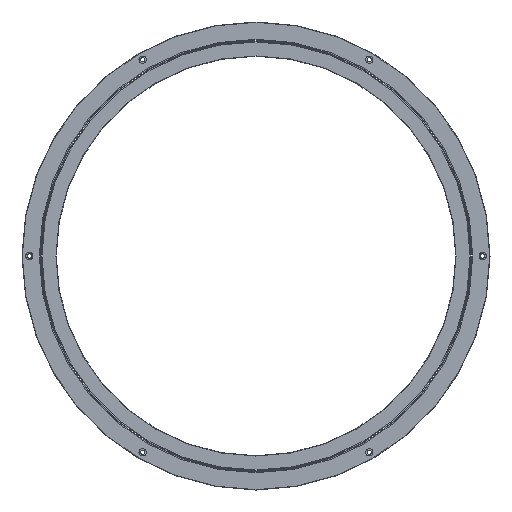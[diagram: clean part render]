
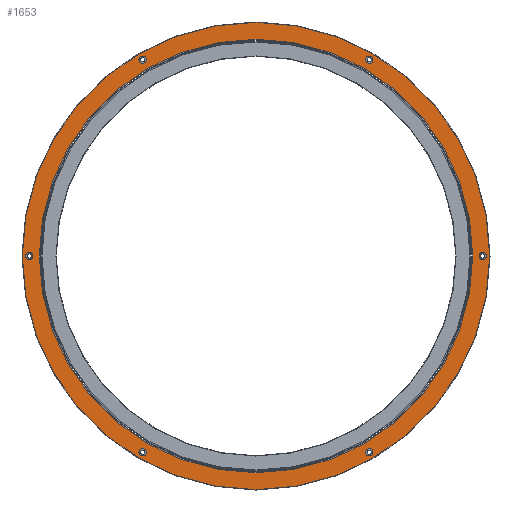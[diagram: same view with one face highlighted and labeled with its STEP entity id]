
A CAD part, front view. The second image highlights one B-rep face of the part: STEP entity #1653.
In plain terms, the highlighted planar face has unit normal (0, -1, 0).
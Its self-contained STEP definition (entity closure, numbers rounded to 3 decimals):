
#371=CARTESIAN_POINT('',(0.,0.,0.));
#372=DIRECTION('',(0.,-1.,0.));
#373=DIRECTION('',(-1.,0.,0.));
#374=AXIS2_PLACEMENT_3D('',#371,#372,#373);
#376=CARTESIAN_POINT('',(0.,0.,0.));
#377=DIRECTION('',(0.,1.,0.));
#378=DIRECTION('',(-1.,0.,0.));
#379=AXIS2_PLACEMENT_3D('',#376,#377,#378);
#381=CARTESIAN_POINT('',(-340.5,0.,0.));
#382=DIRECTION('',(0.,1.,0.));
#383=DIRECTION('',(1.,0.,0.));
#384=AXIS2_PLACEMENT_3D('',#381,#382,#383);
#386=CARTESIAN_POINT('',(-340.5,0.,0.));
#387=DIRECTION('',(0.,1.,0.));
#388=DIRECTION('',(-1.,0.,0.));
#389=AXIS2_PLACEMENT_3D('',#386,#387,#388);
#391=CARTESIAN_POINT('',(-170.25,0.,294.882));
#392=DIRECTION('',(0.,1.,0.));
#393=DIRECTION('',(0.5,0.,-0.866));
#394=AXIS2_PLACEMENT_3D('',#391,#392,#393);
#396=CARTESIAN_POINT('',(-170.25,0.,294.882));
#397=DIRECTION('',(0.,1.,0.));
#398=DIRECTION('',(-0.5,0.,0.866));
#399=AXIS2_PLACEMENT_3D('',#396,#397,#398);
#401=CARTESIAN_POINT('',(170.25,0.,294.882));
#402=DIRECTION('',(0.,1.,0.));
#403=DIRECTION('',(-0.5,0.,-0.866));
#404=AXIS2_PLACEMENT_3D('',#401,#402,#403);
#406=CARTESIAN_POINT('',(170.25,0.,294.882));
#407=DIRECTION('',(0.,1.,0.));
#408=DIRECTION('',(0.5,0.,0.866));
#409=AXIS2_PLACEMENT_3D('',#406,#407,#408);
#411=CARTESIAN_POINT('',(340.5,0.,0.));
#412=DIRECTION('',(0.,1.,0.));
#413=DIRECTION('',(-1.,0.,0.));
#414=AXIS2_PLACEMENT_3D('',#411,#412,#413);
#416=CARTESIAN_POINT('',(340.5,0.,0.));
#417=DIRECTION('',(0.,1.,0.));
#418=DIRECTION('',(1.,0.,0.));
#419=AXIS2_PLACEMENT_3D('',#416,#417,#418);
#421=CARTESIAN_POINT('',(170.25,0.,-294.882));
#422=DIRECTION('',(0.,1.,0.));
#423=DIRECTION('',(-0.5,0.,0.866));
#424=AXIS2_PLACEMENT_3D('',#421,#422,#423);
#426=CARTESIAN_POINT('',(170.25,0.,-294.882));
#427=DIRECTION('',(0.,1.,0.));
#428=DIRECTION('',(0.5,0.,-0.866));
#429=AXIS2_PLACEMENT_3D('',#426,#427,#428);
#431=CARTESIAN_POINT('',(-170.25,0.,-294.882));
#432=DIRECTION('',(0.,1.,0.));
#433=DIRECTION('',(0.5,0.,0.866));
#434=AXIS2_PLACEMENT_3D('',#431,#432,#433);
#436=CARTESIAN_POINT('',(-170.25,0.,-294.882));
#437=DIRECTION('',(0.,1.,0.));
#438=DIRECTION('',(-0.5,0.,-0.866));
#439=AXIS2_PLACEMENT_3D('',#436,#437,#438);
#441=CARTESIAN_POINT('',(0.,0.,0.));
#442=DIRECTION('',(0.,1.,0.));
#443=DIRECTION('',(-1.,0.,0.));
#444=AXIS2_PLACEMENT_3D('',#441,#442,#443);
#446=CARTESIAN_POINT('',(0.,0.,0.));
#447=DIRECTION('',(0.,1.,0.));
#448=DIRECTION('',(1.,0.,0.));
#449=AXIS2_PLACEMENT_3D('',#446,#447,#448);
#919=CARTESIAN_POINT('',(-335.,0.,0.));
#920=VERTEX_POINT('',#919);
#921=CARTESIAN_POINT('',(-346.,0.,0.));
#922=VERTEX_POINT('',#921);
#931=CARTESIAN_POINT('',(-167.5,0.,290.119));
#932=VERTEX_POINT('',#931);
#933=CARTESIAN_POINT('',(-173.,0.,299.645));
#934=VERTEX_POINT('',#933);
#943=CARTESIAN_POINT('',(167.5,0.,290.119));
#944=VERTEX_POINT('',#943);
#945=CARTESIAN_POINT('',(173.,0.,299.645));
#946=VERTEX_POINT('',#945);
#955=CARTESIAN_POINT('',(335.,0.,0.));
#956=VERTEX_POINT('',#955);
#957=CARTESIAN_POINT('',(346.,0.,0.));
#958=VERTEX_POINT('',#957);
#976=CARTESIAN_POINT('',(-325.5,0.,0.));
#978=VERTEX_POINT('',#976);
#980=CARTESIAN_POINT('',(325.5,0.,0.));
#982=VERTEX_POINT('',#980);
#995=CARTESIAN_POINT('',(-351.,0.,0.));
#996=CARTESIAN_POINT('',(351.,0.,0.));
#997=VERTEX_POINT('',#995);
#998=VERTEX_POINT('',#996);
#1043=CARTESIAN_POINT('',(167.5,0.,-290.119));
#1044=CARTESIAN_POINT('',(173.,0.,-299.645));
#1045=VERTEX_POINT('',#1043);
#1046=VERTEX_POINT('',#1044);
#1055=CARTESIAN_POINT('',(-167.5,0.,-290.119));
#1056=CARTESIAN_POINT('',(-173.,0.,-299.645));
#1057=VERTEX_POINT('',#1055);
#1058=VERTEX_POINT('',#1056);
#1604=CARTESIAN_POINT('',(0.,0.,0.));
#1605=DIRECTION('',(0.,1.,0.));
#1606=DIRECTION('',(1.,0.,0.));
#1607=AXIS2_PLACEMENT_3D('',#1604,#1605,#1606);
#1608=PLANE('',#1607);
#1609=ORIENTED_EDGE('',*,*,#1090,.T.);
#1610=ORIENTED_EDGE('',*,*,#1105,.T.);
#1611=EDGE_LOOP('',(#1609,#1610));
#1612=FACE_OUTER_BOUND('',#1611,.F.);
#1614=ORIENTED_EDGE('',*,*,#1613,.F.);
#1616=ORIENTED_EDGE('',*,*,#1615,.F.);
#1617=EDGE_LOOP('',(#1614,#1616));
#1618=FACE_BOUND('',#1617,.F.);
#1620=ORIENTED_EDGE('',*,*,#1619,.F.);
#1622=ORIENTED_EDGE('',*,*,#1621,.F.);
#1623=EDGE_LOOP('',(#1620,#1622));
#1624=FACE_BOUND('',#1623,.F.);
#1626=ORIENTED_EDGE('',*,*,#1625,.F.);
#1628=ORIENTED_EDGE('',*,*,#1627,.F.);
#1629=EDGE_LOOP('',(#1626,#1628));
#1630=FACE_BOUND('',#1629,.F.);
#1632=ORIENTED_EDGE('',*,*,#1631,.F.);
#1634=ORIENTED_EDGE('',*,*,#1633,.F.);
#1635=EDGE_LOOP('',(#1632,#1634));
#1636=FACE_BOUND('',#1635,.F.);
#1638=ORIENTED_EDGE('',*,*,#1637,.F.);
#1640=ORIENTED_EDGE('',*,*,#1639,.F.);
#1641=EDGE_LOOP('',(#1638,#1640));
#1642=FACE_BOUND('',#1641,.F.);
#1644=ORIENTED_EDGE('',*,*,#1643,.F.);
#1646=ORIENTED_EDGE('',*,*,#1645,.F.);
#1647=EDGE_LOOP('',(#1644,#1646));
#1648=FACE_BOUND('',#1647,.F.);
#1649=ORIENTED_EDGE('',*,*,#1599,.T.);
#1650=ORIENTED_EDGE('',*,*,#1583,.F.);
#1651=EDGE_LOOP('',(#1649,#1650));
#1652=FACE_BOUND('',#1651,.F.);
#375=CIRCLE('',#374,325.5);
#380=CIRCLE('',#379,325.5);
#385=CIRCLE('',#384,5.5);
#390=CIRCLE('',#389,5.5);
#395=CIRCLE('',#394,5.5);
#400=CIRCLE('',#399,5.5);
#405=CIRCLE('',#404,5.5);
#410=CIRCLE('',#409,5.5);
#415=CIRCLE('',#414,5.5);
#420=CIRCLE('',#419,5.5);
#425=CIRCLE('',#424,5.5);
#430=CIRCLE('',#429,5.5);
#435=CIRCLE('',#434,5.5);
#440=CIRCLE('',#439,5.5);
#445=CIRCLE('',#444,351.);
#450=CIRCLE('',#449,351.);
#1090=EDGE_CURVE('',#997,#998,#445,.T.);
#1105=EDGE_CURVE('',#998,#997,#450,.T.);
#1583=EDGE_CURVE('',#978,#982,#380,.T.);
#1599=EDGE_CURVE('',#978,#982,#375,.T.);
#1613=EDGE_CURVE('',#920,#922,#385,.T.);
#1615=EDGE_CURVE('',#922,#920,#390,.T.);
#1619=EDGE_CURVE('',#932,#934,#395,.T.);
#1621=EDGE_CURVE('',#934,#932,#400,.T.);
#1625=EDGE_CURVE('',#944,#946,#405,.T.);
#1627=EDGE_CURVE('',#946,#944,#410,.T.);
#1631=EDGE_CURVE('',#956,#958,#415,.T.);
#1633=EDGE_CURVE('',#958,#956,#420,.T.);
#1637=EDGE_CURVE('',#1045,#1046,#425,.T.);
#1639=EDGE_CURVE('',#1046,#1045,#430,.T.);
#1643=EDGE_CURVE('',#1057,#1058,#435,.T.);
#1645=EDGE_CURVE('',#1058,#1057,#440,.T.);
#1653=ADVANCED_FACE('',(#1612,#1618,#1624,#1630,#1636,#1642,#1648,#1652),#1608,
.F.);
